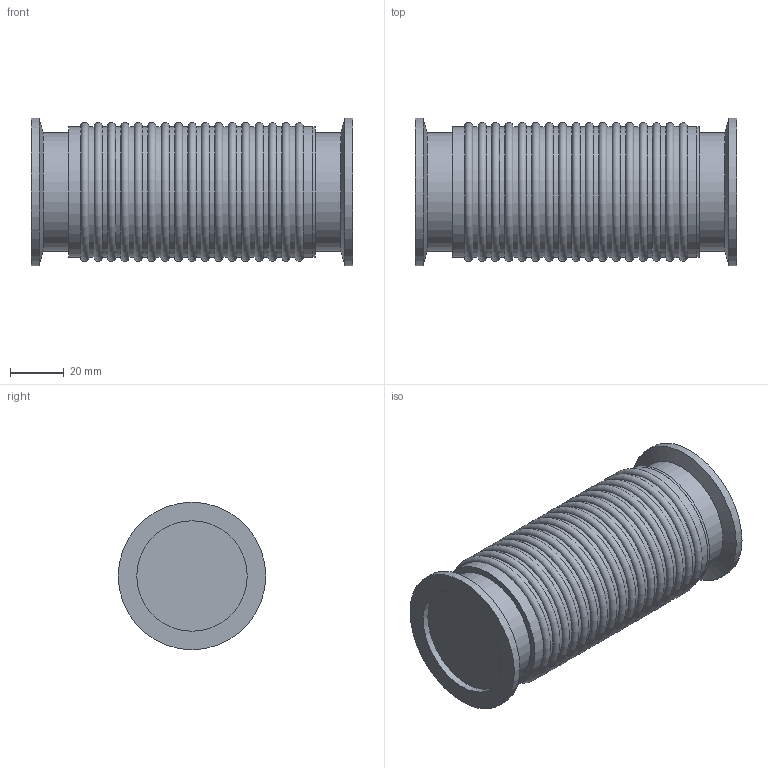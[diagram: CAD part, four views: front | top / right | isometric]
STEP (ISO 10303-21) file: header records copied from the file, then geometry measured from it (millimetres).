
FILE_DESCRIPTION(/* description */ ('Unknown'),/* implementation_level */ '2;1');
FILE_NAME(/* name */ '1996',/* time_stamp */ '2017-07-28T13:02:57+02:00',/* author */ ('Unknown'),/* organization */ ('Unknown'),/* preprocessor_version */ 'ST-DEVELOPER v16.7',/* originating_system */ 'DEX',/* authorisation */ $);
FILE_SCHEMA (('AUTOMOTIVE_DESIGN {1 0 10303 214 3 1 1}'));
Length unit declared in the file: millimetre
Products named in the file (1): 1996
Bounding box: 120 x 55 x 55 mm (x, y, z)
Volume: 223731.3 mm3; surface area: 30518 mm2
Topology: 1 solids, 1 shells, 51 faces, 94 edges, 50 vertices
Faces by surface type: cylinder 25, torus 17, plane 7, cone 2
Full cylindrical faces by diameter (mm): 41.2 x2, 44 x2, 48.8 x15, 48.839 x4, 55 x2
Entity records: 1044 total; most frequent: DIRECTION 204, CARTESIAN_POINT 152, AXIS2_PLACEMENT_3D 102, ORIENTED_EDGE 100, EDGE_LOOP 100, FACE_BOUND 100, ADVANCED_FACE 51, EDGE_CURVE 50
